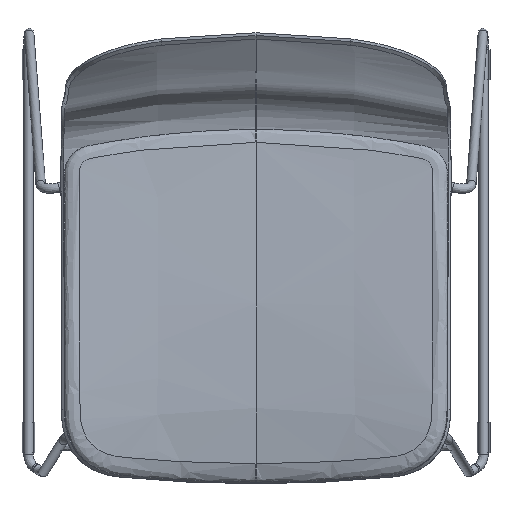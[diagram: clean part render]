
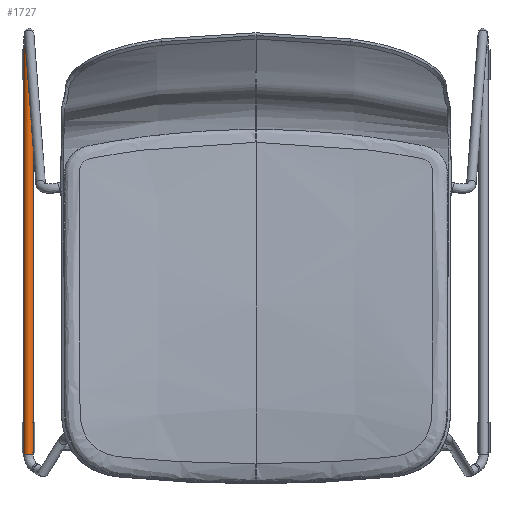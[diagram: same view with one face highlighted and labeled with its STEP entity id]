
A CAD part, top view. The second image highlights one B-rep face of the part: STEP entity #1727.
In plain terms, the highlighted cylindrical face has radius 5.5 mm (diameter 11 mm), a full revolution.
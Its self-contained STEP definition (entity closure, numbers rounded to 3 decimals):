
#183=(
BOUNDED_CURVE()
B_SPLINE_CURVE(2,(#75749,#75750,#75751,#75752,#75753,#75754,#75755,#75756,
#75757),.UNSPECIFIED.,.T.,.F.)
B_SPLINE_CURVE_WITH_KNOTS((3,2,2,2,3),(0.,8.639,17.279,
25.918,34.558),.UNSPECIFIED.)
CURVE()
GEOMETRIC_REPRESENTATION_ITEM()
RATIONAL_B_SPLINE_CURVE((1.,0.707,1.,0.707,1.,0.707,
1.,0.707,1.))
REPRESENTATION_ITEM('')
);
#184=(
BOUNDED_CURVE()
B_SPLINE_CURVE(3,(#75758,#75759,#75760,#75761),.UNSPECIFIED.,.F.,.F.)
B_SPLINE_CURVE_WITH_KNOTS((4,4),(0.,472.331),.UNSPECIFIED.)
CURVE()
GEOMETRIC_REPRESENTATION_ITEM()
RATIONAL_B_SPLINE_CURVE((1.,1.,1.,1.))
REPRESENTATION_ITEM('')
);
#185=(
BOUNDED_CURVE()
B_SPLINE_CURVE(2,(#75762,#75763,#75764,#75765,#75766,#75767,#75768,#75769,
#75770),.UNSPECIFIED.,.T.,.F.)
B_SPLINE_CURVE_WITH_KNOTS((3,2,2,2,3),(0.,8.639,17.279,
25.918,34.558),.UNSPECIFIED.)
CURVE()
GEOMETRIC_REPRESENTATION_ITEM()
RATIONAL_B_SPLINE_CURVE((1.,0.707,1.,0.707,1.,0.707,
1.,0.707,1.))
REPRESENTATION_ITEM('')
);
#795=CYLINDRICAL_SURFACE('',#15837,5.5);
#1727=ADVANCED_FACE('',(#2657),#795,.T.);
#2657=FACE_OUTER_BOUND('',#3672,.T.);
#3672=EDGE_LOOP('',(#8258,#8259,#8260,#8261));
#8258=ORIENTED_EDGE('',*,*,#10842,.T.);
#8259=ORIENTED_EDGE('',*,*,#10843,.T.);
#8260=ORIENTED_EDGE('',*,*,#10844,.F.);
#8261=ORIENTED_EDGE('',*,*,#10843,.F.);
#10842=EDGE_CURVE('',#14821,#14821,#183,.T.);
#10843=EDGE_CURVE('',#14821,#14822,#184,.T.);
#10844=EDGE_CURVE('',#14822,#14822,#185,.T.);
#14821=VERTEX_POINT('',#75633);
#14822=VERTEX_POINT('',#75634);
#15837=AXIS2_PLACEMENT_3D('',#75361,#16403,$);
#16403=DIRECTION('',(0.,-1.,0.));
#75361=CARTESIAN_POINT('',(-264.,25.511,8.501));
#75633=CARTESIAN_POINT('',(-269.413,261.677,7.528));
#75634=CARTESIAN_POINT('',(-269.413,-210.654,7.528));
#75749=CARTESIAN_POINT('',(-269.413,261.677,7.528));
#75750=CARTESIAN_POINT('',(-268.44,261.677,2.115));
#75751=CARTESIAN_POINT('',(-263.027,261.677,3.088));
#75752=CARTESIAN_POINT('',(-257.614,261.677,4.061));
#75753=CARTESIAN_POINT('',(-258.587,261.677,9.475));
#75754=CARTESIAN_POINT('',(-259.56,261.677,14.888));
#75755=CARTESIAN_POINT('',(-264.973,261.677,13.915));
#75756=CARTESIAN_POINT('',(-270.386,261.677,12.941));
#75757=CARTESIAN_POINT('',(-269.413,261.677,7.528));
#75758=CARTESIAN_POINT('',(-269.413,261.677,7.528));
#75759=CARTESIAN_POINT('',(-269.413,104.233,7.528));
#75760=CARTESIAN_POINT('',(-269.413,-53.211,7.528));
#75761=CARTESIAN_POINT('',(-269.413,-210.654,7.528));
#75762=CARTESIAN_POINT('',(-269.413,-210.654,7.528));
#75763=CARTESIAN_POINT('',(-268.44,-210.654,2.115));
#75764=CARTESIAN_POINT('',(-263.027,-210.654,3.088));
#75765=CARTESIAN_POINT('',(-257.614,-210.654,4.061));
#75766=CARTESIAN_POINT('',(-258.587,-210.654,9.475));
#75767=CARTESIAN_POINT('',(-259.56,-210.654,14.888));
#75768=CARTESIAN_POINT('',(-264.973,-210.654,13.915));
#75769=CARTESIAN_POINT('',(-270.386,-210.654,12.941));
#75770=CARTESIAN_POINT('',(-269.413,-210.654,7.528));
